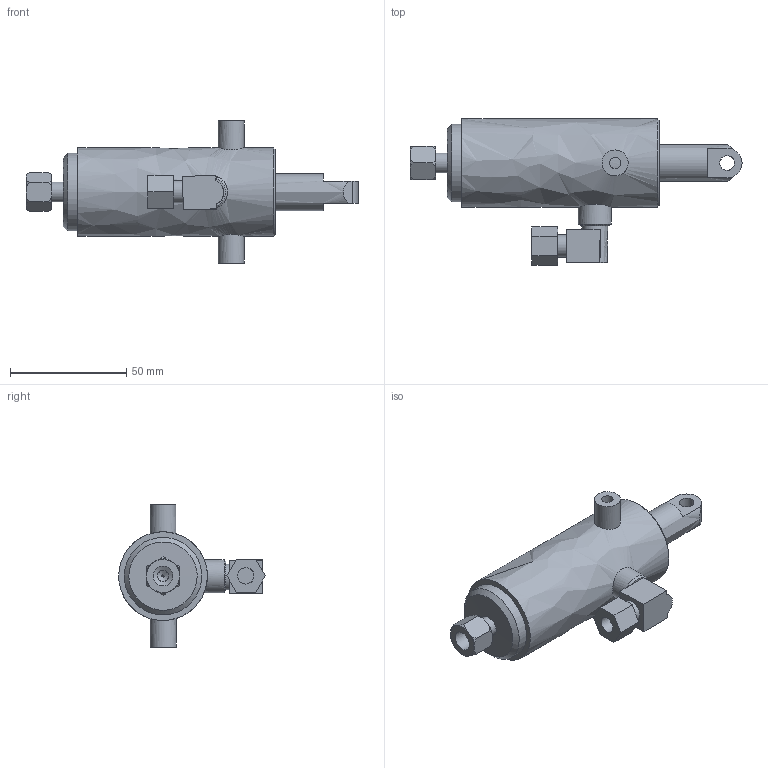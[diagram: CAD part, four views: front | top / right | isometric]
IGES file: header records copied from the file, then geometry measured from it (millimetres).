
Global section: file name: cy-201-SP-T; native system: Autodesk RealDWG; preprocessor: Autodesk Translation Framework DWG producer (atf_dwg_producer); author: rtaylor; organization: unknown; date: 20151123.163600; units: inch
Bounding box: 142.72 x 63.01 x 61.1 mm (x, y, z)
Volume: 76589.2 mm3; surface area: 44929.6 mm2
Topology: 10 solids, 10 shells, 182 faces, 452 edges, 326 vertices
Faces by surface type: bspline 182
